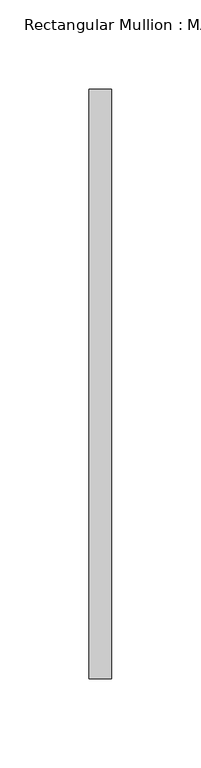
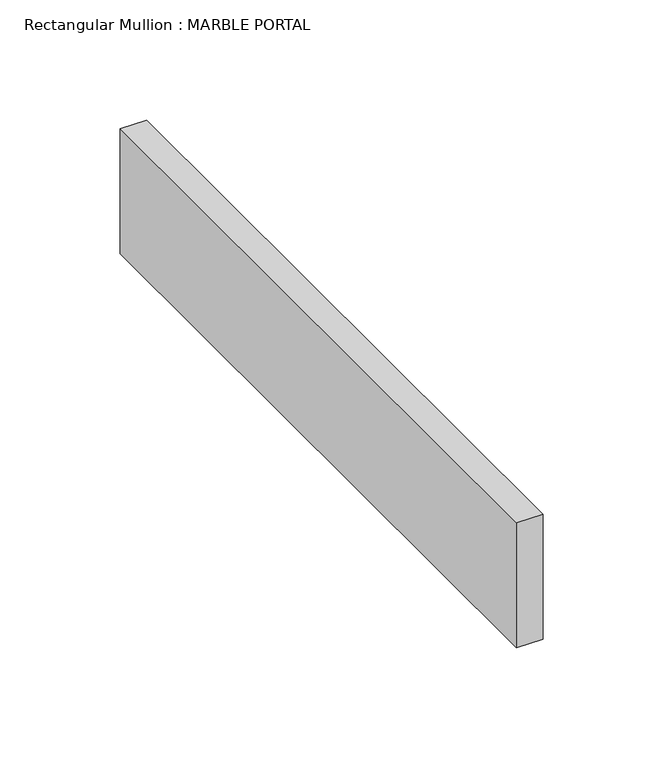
"""IFC4 building model written with IfcOpenShell, lengths in millimetres: member geometry, Rectangular Mullion : MARBLE PORTAL."""

from ifc_helpers import new_model, si_unit, frame, origin, place, context, project, spatial, polyline, outline, extrude, source, transform, mapped, element, save


def rectangular_mullion_marble_portal_6dfddb06(model_context):
    return source(origin(), model_context, "Body", "SweptSolid", [
        extrude(outline(polyline([(6.35, 190.5), (6.35, -139.7), (-6.35, -139.7), (-6.35, 190.5), (6.35, 190.5)])), frame((0.0, 0.0, -63.5), z_axis=(0.0, 0.0, 1.0), x_axis=(1.0, 0.0, 0.0)), (0.0, 0.0, 1.0), 63.5),
    ])


if __name__ == "__main__":
    model = new_model("IFC4")
    model_context = context("Model", 3, world=origin())
    ifc_project = project(units=[si_unit("LENGTHUNIT", "METRE", prefix="MILLI")], contexts=[model_context])
    site = spatial("IfcSite", under=ifc_project)
    building = spatial("IfcBuilding", under=site)
    placement = place(None, origin())
    rectangular_mullion_marble_portal_shape = rectangular_mullion_marble_portal_6dfddb06(model_context)
    element("IfcMember", 1, ObjectType="Rectangular Mullion : MARBLE PORTAL", at=placement, inside=building, context=model_context, shape_type="MappedRepresentation", body=[
        mapped(rectangular_mullion_marble_portal_shape, transform((0.0, 0.0, 0.0), x_axis=(1.0, 0.0, 0.0), y_axis=(0.0, 1.0, 0.0), z_axis=(0.0, 0.0, 1.0))),
    ])
    save(model, "model.ifc")
